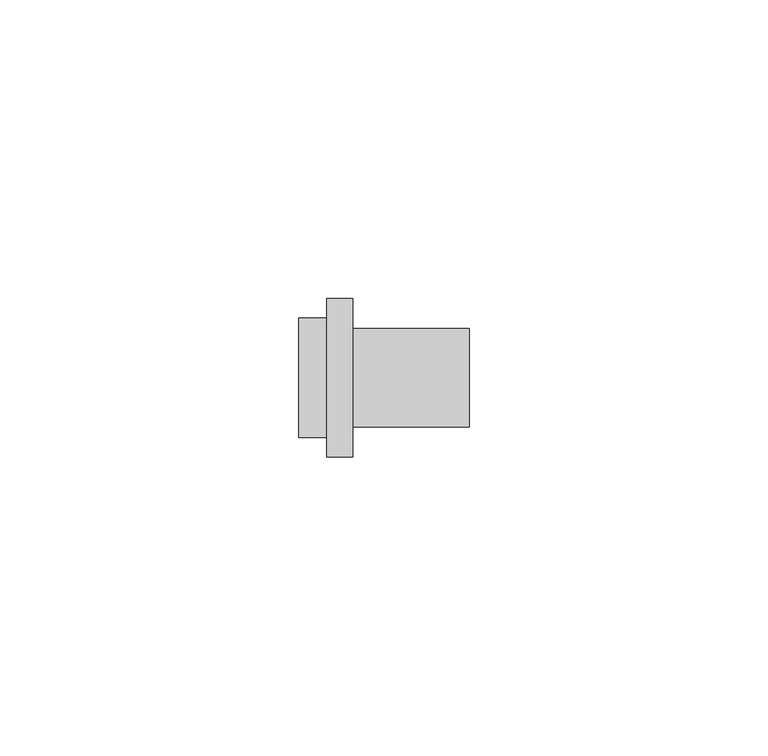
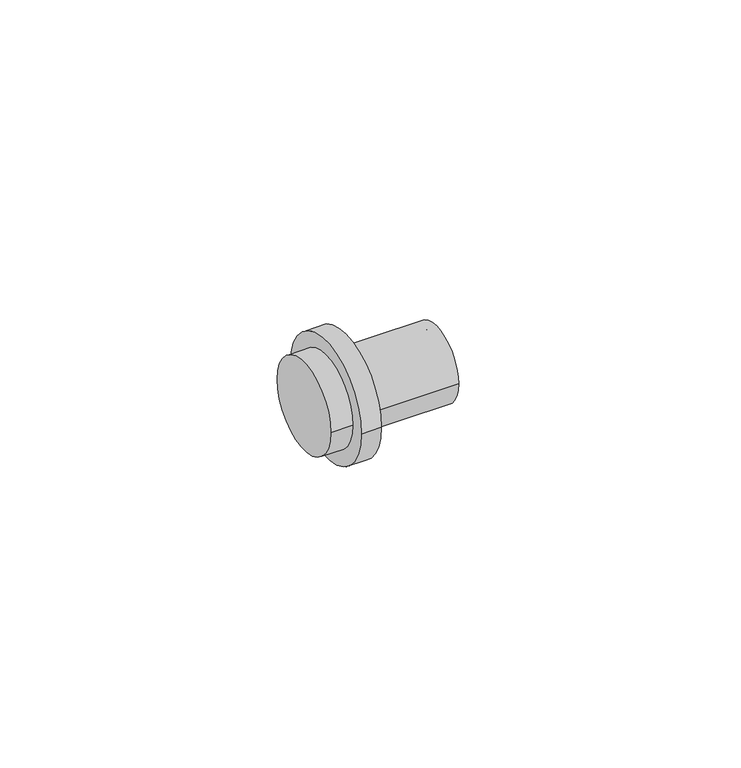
"""IFC4 building model written with IfcOpenShell, lengths in millimetres: pipe fitting geometry, REHAU_RAUTITAN_Dummy_Plug_RX+ : REHAU_RAUTITAN_Dummy_Plug_RX+."""

from ifc_helpers import new_model, si_unit, point, frame, origin, origin_2d, place, context, project, spatial, polyline, circle_curve, trimmed, segment, composite_curve, outline, extrude, source, transform, mapped, element, save
from ifc_brep_helpers import plane_surface, cylinder_surface, revolved_surface, advanced_brep


def pipe_fitting_a06d4a4a(model_context):
    return source(origin(), model_context, "Body", "SolidModel", [
        extrude(outline(composite_curve([segment(trimmed(circle_curve(origin_2d(), 10.0), [point((-10.0, 0.0))], [point((10.0, 0.0))], False, "CARTESIAN"), True, "CONTINUOUS"), segment(trimmed(circle_curve(origin_2d(), 10.0), [point((10.0, 0.0))], [point((-10.0, 0.0))], False, "CARTESIAN"), True, "CONTINUOUS")], self_intersect=False)), frame((-4.7, 0.0, 0.0), z_axis=(1.0, 0.0, 0.0), x_axis=(0.0, 1.0, 0.0)), (0.0, 0.0, 1.0), 4.7),
        advanced_brep(
        [(4.3, -13.25, 0.0), (4.3, 13.25, 0.0), (4.3, 6.25, 0.0), (4.3, -6.25, 0.0), (0.0, -13.25, 0.0), (0.0, 13.25, 0.0), (1.3, -6.25, 0.0), (1.3, 6.25, 0.0)],
        [
            (0, 1, circle_curve(frame((4.3, 0.0, 0.0), z_axis=(1.0, 0.0, 0.0), x_axis=(0.0, 1.0, 0.0)), 13.25)),
            (1, 0, circle_curve(frame((4.3, 0.0, 0.0), z_axis=(1.0, 0.0, 0.0), x_axis=(0.0, 1.0, 0.0)), 13.25)),
            (2, 3, circle_curve(frame((4.3, 0.0, 0.0), z_axis=(-1.0, 0.0, 0.0), x_axis=(0.0, 1.0, 0.0)), 6.25)),
            (3, 2, circle_curve(frame((4.3, 0.0, 0.0), z_axis=(-1.0, 0.0, 0.0), x_axis=(0.0, 1.0, 0.0)), 6.25)),
            (4, 5, circle_curve(frame((0.0, 0.0, 0.0), z_axis=(-1.0, 0.0, 0.0), x_axis=(0.0, 1.0, 0.0)), 13.25)),
            (5, 4, circle_curve(frame((0.0, 0.0, 0.0), z_axis=(-1.0, 0.0, 0.0), x_axis=(0.0, 1.0, 0.0)), 13.25)),
            (0, 4),
            (5, 1),
            (6, 7, circle_curve(frame((1.3, 0.0, 0.0), z_axis=(1.0, 0.0, 0.0), x_axis=(0.0, 1.0, 0.0)), 6.25)),
            (7, 6, circle_curve(frame((1.3, 0.0, 0.0), z_axis=(1.0, 0.0, 0.0), x_axis=(0.0, 1.0, 0.0)), 6.25)),
            (6, 3),
            (2, 7),
        ],
        [
            plane_surface(frame((4.3, 13.25, 0.0), z_axis=(1.0, 0.0, 0.0), x_axis=(0.0, 0.0, 1.0))),
            plane_surface(frame((0.0, 13.25, 0.0), z_axis=(-1.0, 0.0, 0.0), x_axis=(0.0, 0.0, -1.0))),
            cylinder_surface(frame((0.0, 0.0, 0.0), z_axis=(1.0, 0.0, 0.0), x_axis=(0.0, 1.0, 0.0)), 13.25),
            plane_surface(frame((1.3, 6.25, 0.0), z_axis=(1.0, 0.0, 0.0), x_axis=(0.0, 0.0, -1.0))),
            revolved_surface(polyline([(4.3, 6.25, 0.0), (1.3, 6.25, 0.0)]), (1.3, 0.0, 0.0), (1.0, 0.0, 0.0)),
        ],
        [
            (0, [[1, 2], [3, 4]]),
            (1, [[5, 6]]),
            (2, [[-1, 7, -6, 8]]),
            (2, [[-2, -8, -5, -7]]),
            (3, [[9, 10]]),
            (4, [[-9, 11, -3, 12]]),
            (4, [[-10, -12, -4, -11]]),
        ],
    ),
        extrude(outline(composite_curve([segment(trimmed(circle_curve(origin_2d(), 8.225), [point((-8.225, 0.0))], [point((8.225, 0.0))], False, "CARTESIAN"), True, "CONTINUOUS"), segment(trimmed(circle_curve(origin_2d(), 8.225), [point((8.225, 0.0))], [point((-8.225, 0.0))], False, "CARTESIAN"), True, "CONTINUOUS")], self_intersect=False), holes=[composite_curve([segment(trimmed(circle_curve(origin_2d(), 6.25), [point((-6.25, 0.0))], [point((6.25, 0.0))], True, "CARTESIAN"), True, "CONTINUOUS"), segment(trimmed(circle_curve(origin_2d(), 6.25), [point((6.25, 0.0))], [point((-6.25, 0.0))], True, "CARTESIAN"), True, "CONTINUOUS")], self_intersect=False)]), frame((1.3, 0.0, 0.0), z_axis=(1.0, 0.0, 0.0), x_axis=(0.0, 1.0, 0.0)), (0.0, 0.0, 1.0), 22.5),
    ])


if __name__ == "__main__":
    model = new_model("IFC4")
    model_context = context("Model", 3, world=origin())
    ifc_project = project(units=[si_unit("LENGTHUNIT", "METRE", prefix="MILLI")], contexts=[model_context])
    site = spatial("IfcSite", under=ifc_project)
    building = spatial("IfcBuilding", under=site)
    placement = place(None, origin())
    pipe_fitting_shape = pipe_fitting_a06d4a4a(model_context)
    element("IfcPipeFitting", 1, ObjectType="REHAU_RAUTITAN_Dummy_Plug_RX+ : REHAU_RAUTITAN_Dummy_Plug_RX+", at=placement, inside=building, context=model_context, shape_type="MappedRepresentation", body=[
        mapped(pipe_fitting_shape, transform((0.0, 0.0, 0.0), x_axis=(1.0, 0.0, 0.0), y_axis=(0.0, 1.0, 0.0), z_axis=(0.0, 0.0, 1.0))),
    ])
    save(model, "model.ifc")
